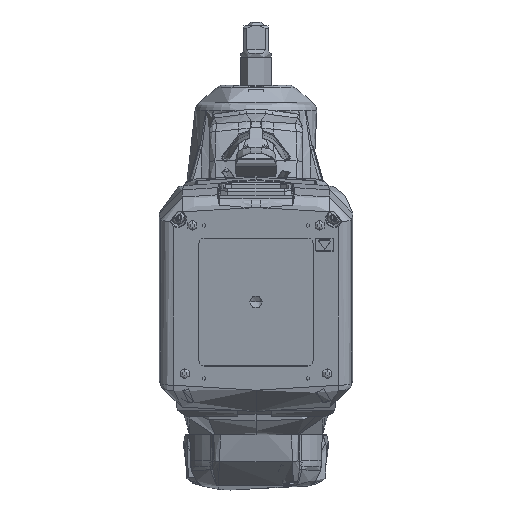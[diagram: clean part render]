
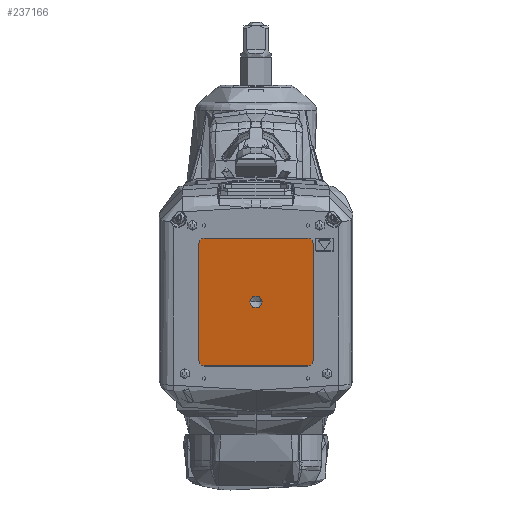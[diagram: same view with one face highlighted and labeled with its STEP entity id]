
A CAD part, front view. The second image highlights one B-rep face of the part: STEP entity #237166.
In plain terms, the highlighted planar face has unit normal (0, -0.985, -0.174) as drawn and (0, 0, -1) by its records, which use the part's own axes.
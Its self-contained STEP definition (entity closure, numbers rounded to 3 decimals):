
#4252 = EDGE_CURVE ( 'NONE', #69553, #190005, #154833, .T. ) ;
#7320 = CARTESIAN_POINT ( 'NONE',  ( -21.993, -21., -29.6 ) ) ;
#10188 = DIRECTION ( 'NONE',  ( 0., 1., 0. ) ) ;
#11103 = CARTESIAN_POINT ( 'NONE',  ( -20., -68.993, -29.6 ) ) ;
#18354 = CARTESIAN_POINT ( 'NONE',  ( -20., -19.007, -29.6 ) ) ;
#18742 = VERTEX_POINT ( 'NONE', #82144 ) ;
#20265 = LINE ( 'NONE', #218070, #41418 ) ;
#24023 = DIRECTION ( 'NONE',  ( 0., 0., -1. ) ) ;
#28596 = CARTESIAN_POINT ( 'NONE',  ( -20., -67., -29.6 ) ) ;
#31999 = VECTOR ( 'NONE', #214779, 1000. ) ;
#32657 = EDGE_CURVE ( 'NONE', #113602, #139076, #152875, .T. ) ;
#33066 = EDGE_CURVE ( 'NONE', #134341, #37871, #222700, .T. ) ;
#34180 = CARTESIAN_POINT ( 'NONE',  ( 2.5, -44., -29.6 ) ) ;
#34779 = DIRECTION ( 'NONE',  ( 0., 0., -1. ) ) ;
#34892 = ORIENTED_EDGE ( 'NONE', *, *, #196995, .T. ) ;
#35043 = PLANE ( 'NONE',  #38954 ) ;
#37871 = VERTEX_POINT ( 'NONE', #167631 ) ;
#38954 = AXIS2_PLACEMENT_3D ( 'NONE', #211099, #233732, #56700 ) ;
#39063 = ORIENTED_EDGE ( 'NONE', *, *, #32657, .T. ) ;
#40050 = DIRECTION ( 'NONE',  ( 1., 0., 0. ) ) ;
#40120 = AXIS2_PLACEMENT_3D ( 'NONE', #141822, #272190, #250552 ) ;
#40582 = EDGE_CURVE ( 'NONE', #189679, #211703, #129834, .T. ) ;
#41418 = VECTOR ( 'NONE', #40050, 1000. ) ;
#47839 = AXIS2_PLACEMENT_3D ( 'NONE', #236404, #34779, #57423 ) ;
#56700 = DIRECTION ( 'NONE',  ( 0., 1., 0. ) ) ;
#57423 = DIRECTION ( 'NONE',  ( 0., 1., 0. ) ) ;
#69227 = CARTESIAN_POINT ( 'NONE',  ( 20., -67., -29.6 ) ) ;
#69553 = VERTEX_POINT ( 'NONE', #69683 ) ;
#69683 = CARTESIAN_POINT ( 'NONE',  ( 20., -19.007, -29.6 ) ) ;
#73883 = CARTESIAN_POINT ( 'NONE',  ( 21.993, -21., -29.6 ) ) ;
#76549 = ORIENTED_EDGE ( 'NONE', *, *, #40582, .T. ) ;
#77423 = VERTEX_POINT ( 'NONE', #87685 ) ;
#77433 = ORIENTED_EDGE ( 'NONE', *, *, #78240, .T. ) ;
#78240 = EDGE_CURVE ( 'NONE', #139076, #69553, #20265, .T. ) ;
#78950 = CARTESIAN_POINT ( 'NONE',  ( -21.993, -67., -29.6 ) ) ;
#82144 = CARTESIAN_POINT ( 'NONE',  ( -20., -68.993, -29.6 ) ) ;
#82672 = ORIENTED_EDGE ( 'NONE', *, *, #158186, .T. ) ;
#86403 = EDGE_CURVE ( 'NONE', #190005, #134341, #221808, .T. ) ;
#87685 = CARTESIAN_POINT ( 'NONE',  ( -21.993, -67., -29.6 ) ) ;
#89935 = CIRCLE ( 'NONE', #172781, 1.993 ) ;
#90168 = EDGE_LOOP ( 'NONE', ( #118314, #34892, #39063, #77433, #235390, #284975, #152167, #82672 ) ) ;
#98971 = DIRECTION ( 'NONE',  ( 1., 0., 0. ) ) ;
#113602 = VERTEX_POINT ( 'NONE', #7320 ) ;
#117302 = AXIS2_PLACEMENT_3D ( 'NONE', #165454, #231085, #98971 ) ;
#118314 = ORIENTED_EDGE ( 'NONE', *, *, #188230, .T. ) ;
#119488 = CARTESIAN_POINT ( 'NONE',  ( 21.993, -67., -29.6 ) ) ;
#121849 = CIRCLE ( 'NONE', #117302, 2.5 ) ;
#121904 = CARTESIAN_POINT ( 'NONE',  ( -20., -21., -29.6 ) ) ;
#124822 = LINE ( 'NONE', #11103, #177204 ) ;
#129834 = CIRCLE ( 'NONE', #40120, 2.5 ) ;
#134341 = VERTEX_POINT ( 'NONE', #119488 ) ;
#139076 = VERTEX_POINT ( 'NONE', #18354 ) ;
#141822 = CARTESIAN_POINT ( 'NONE',  ( 0., -44., -29.6 ) ) ;
#152167 = ORIENTED_EDGE ( 'NONE', *, *, #33066, .T. ) ;
#152875 = CIRCLE ( 'NONE', #219631, 1.993 ) ;
#154833 = CIRCLE ( 'NONE', #47839, 1.993 ) ;
#158186 = EDGE_CURVE ( 'NONE', #37871, #18742, #124822, .T. ) ;
#159435 = FACE_OUTER_BOUND ( 'NONE', #90168, .T. ) ;
#160002 = EDGE_LOOP ( 'NONE', ( #239946, #76549 ) ) ;
#162326 = VECTOR ( 'NONE', #271761, 1000. ) ;
#165454 = CARTESIAN_POINT ( 'NONE',  ( 0., -44., -29.6 ) ) ;
#167631 = CARTESIAN_POINT ( 'NONE',  ( 20., -68.993, -29.6 ) ) ;
#172781 = AXIS2_PLACEMENT_3D ( 'NONE', #28596, #183255, #185208 ) ;
#176038 = CARTESIAN_POINT ( 'NONE',  ( -2.5, -44., -29.6 ) ) ;
#177204 = VECTOR ( 'NONE', #277531, 1000. ) ;
#183255 = DIRECTION ( 'NONE',  ( 0., 0., -1. ) ) ;
#185208 = DIRECTION ( 'NONE',  ( 0., 1., 0. ) ) ;
#188230 = EDGE_CURVE ( 'NONE', #18742, #77423, #89935, .T. ) ;
#189679 = VERTEX_POINT ( 'NONE', #34180 ) ;
#190005 = VERTEX_POINT ( 'NONE', #73883 ) ;
#196995 = EDGE_CURVE ( 'NONE', #77423, #113602, #273644, .T. ) ;
#202051 = DIRECTION ( 'NONE',  ( 0., 1., 0. ) ) ;
#211099 = CARTESIAN_POINT ( 'NONE',  ( -20., -67., -29.6 ) ) ;
#211703 = VERTEX_POINT ( 'NONE', #176038 ) ;
#214779 = DIRECTION ( 'NONE',  ( 0., 1., 0. ) ) ;
#218070 = CARTESIAN_POINT ( 'NONE',  ( -20., -19.007, -29.6 ) ) ;
#219631 = AXIS2_PLACEMENT_3D ( 'NONE', #121904, #234419, #10188 ) ;
#221808 = LINE ( 'NONE', #229525, #162326 ) ;
#222700 = CIRCLE ( 'NONE', #246277, 1.993 ) ;
#229525 = CARTESIAN_POINT ( 'NONE',  ( 21.993, -67., -29.6 ) ) ;
#231085 = DIRECTION ( 'NONE',  ( 0., 0., 1. ) ) ;
#233732 = DIRECTION ( 'NONE',  ( 0., 0., -1. ) ) ;
#234419 = DIRECTION ( 'NONE',  ( 0., 0., -1. ) ) ;
#235390 = ORIENTED_EDGE ( 'NONE', *, *, #4252, .T. ) ;
#236404 = CARTESIAN_POINT ( 'NONE',  ( 20., -21., -29.6 ) ) ;
#237166 = ADVANCED_FACE ( 'NONE', ( #159435, #260905 ), #35043, .T. ) ;
#239946 = ORIENTED_EDGE ( 'NONE', *, *, #289611, .T. ) ;
#246277 = AXIS2_PLACEMENT_3D ( 'NONE', #69227, #24023, #202051 ) ;
#250552 = DIRECTION ( 'NONE',  ( 1., 0., 0. ) ) ;
#260905 = FACE_BOUND ( 'NONE', #160002, .T. ) ;
#271761 = DIRECTION ( 'NONE',  ( 0., -1., 0. ) ) ;
#272190 = DIRECTION ( 'NONE',  ( 0., 0., 1. ) ) ;
#273644 = LINE ( 'NONE', #78950, #31999 ) ;
#277531 = DIRECTION ( 'NONE',  ( -1., 0., 0. ) ) ;
#284975 = ORIENTED_EDGE ( 'NONE', *, *, #86403, .T. ) ;
#289611 = EDGE_CURVE ( 'NONE', #211703, #189679, #121849, .T. ) ;
